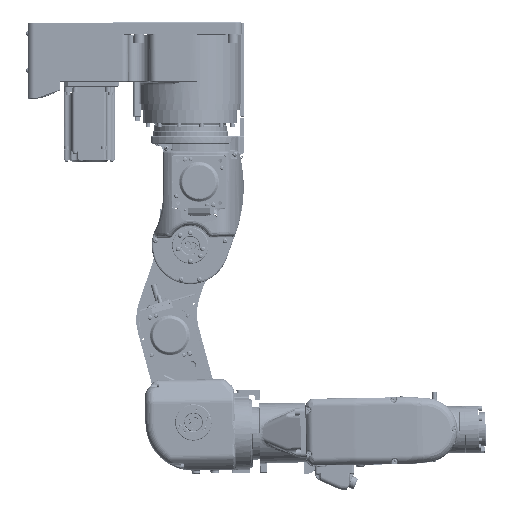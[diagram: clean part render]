
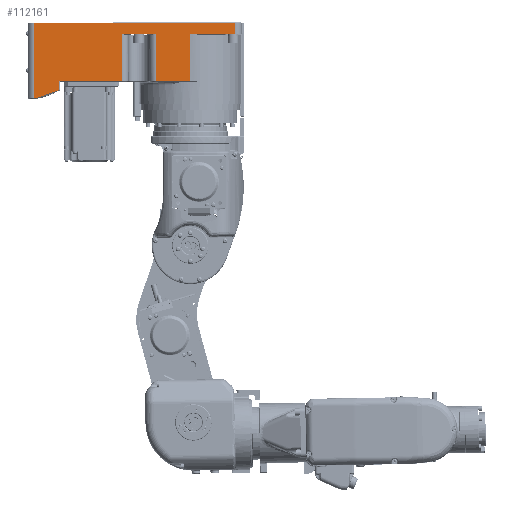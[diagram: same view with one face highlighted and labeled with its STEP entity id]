
A CAD part, front view. The second image highlights one B-rep face of the part: STEP entity #112161.
In plain terms, the highlighted planar face has unit normal (0, -1, 0).
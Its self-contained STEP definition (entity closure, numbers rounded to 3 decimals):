
#1033 = LINE ( 'NONE', #102497, #147409 ) ;
#3832 = CARTESIAN_POINT ( 'NONE',  ( -115.346, -60., -19. ) ) ;
#5036 = ORIENTED_EDGE ( 'NONE', *, *, #10570, .F. ) ;
#7152 = VECTOR ( 'NONE', #68190, 1000. ) ;
#10570 = EDGE_CURVE ( 'NONE', #271564, #52674, #225179, .T. ) ;
#12358 = LINE ( 'NONE', #80039, #276567 ) ;
#12629 = CARTESIAN_POINT ( 'NONE',  ( -115.346, -60., -18. ) ) ;
#17444 = ORIENTED_EDGE ( 'NONE', *, *, #107098, .T. ) ;
#17733 = DIRECTION ( 'NONE',  ( -1., 0., 0. ) ) ;
#19764 = DIRECTION ( 'NONE',  ( 1., 0., 0. ) ) ;
#23576 = ORIENTED_EDGE ( 'NONE', *, *, #147550, .T. ) ;
#26391 = VECTOR ( 'NONE', #36750, 1000. ) ;
#29257 = CARTESIAN_POINT ( 'NONE',  ( -15., -60., 1. ) ) ;
#32375 = EDGE_CURVE ( 'NONE', #271564, #135542, #98711, .T. ) ;
#33222 = ORIENTED_EDGE ( 'NONE', *, *, #236920, .T. ) ;
#33481 = LINE ( 'NONE', #81613, #26391 ) ;
#35337 = DIRECTION ( 'NONE',  ( 0., -1., 0. ) ) ;
#36622 = FACE_OUTER_BOUND ( 'NONE', #54789, .T. ) ;
#36750 = DIRECTION ( 'NONE',  ( 0., 0., -1. ) ) ;
#38523 = CARTESIAN_POINT ( 'NONE',  ( 125., -60., -19. ) ) ;
#39753 = CARTESIAN_POINT ( 'NONE',  ( 65., -60., 56. ) ) ;
#40089 = VERTEX_POINT ( 'NONE', #3832 ) ;
#43642 = LINE ( 'NONE', #38523, #168863 ) ;
#52674 = VERTEX_POINT ( 'NONE', #262591 ) ;
#54789 = EDGE_LOOP ( 'NONE', ( #33222, #23576, #269233, #121682, #136782, #194295, #5036, #254972, #162487, #245500, #88740, #162459, #123405, #17444, #60489, #276138 ) ) ;
#55221 = CARTESIAN_POINT ( 'NONE',  ( 126.021, -60., 67.141 ) ) ;
#56482 = AXIS2_PLACEMENT_3D ( 'NONE', #106504, #220370, #17733 ) ;
#58670 = AXIS2_PLACEMENT_3D ( 'NONE', #12629, #172388, #122516 ) ;
#60489 = ORIENTED_EDGE ( 'NONE', *, *, #102628, .T. ) ;
#64277 = CARTESIAN_POINT ( 'NONE',  ( -117., -60., 70. ) ) ;
#66249 = CARTESIAN_POINT ( 'NONE',  ( -125., -60., 69. ) ) ;
#67938 = VERTEX_POINT ( 'NONE', #244365 ) ;
#68190 = DIRECTION ( 'NONE',  ( 1., 0., 0. ) ) ;
#68613 = DIRECTION ( 'NONE',  ( 1., 0., 0. ) ) ;
#73678 = VERTEX_POINT ( 'NONE', #29257 ) ;
#75849 = VECTOR ( 'NONE', #255734, 1000. ) ;
#76180 = VECTOR ( 'NONE', #68613, 1000. ) ;
#80039 = CARTESIAN_POINT ( 'NONE',  ( 125., -60., 1. ) ) ;
#81613 = CARTESIAN_POINT ( 'NONE',  ( 25., -60., 0. ) ) ;
#83622 = VERTEX_POINT ( 'NONE', #114457 ) ;
#86010 = VERTEX_POINT ( 'NONE', #198870 ) ;
#86563 = EDGE_CURVE ( 'NONE', #209754, #83622, #1033, .T. ) ;
#88740 = ORIENTED_EDGE ( 'NONE', *, *, #292988, .T. ) ;
#90261 = VERTEX_POINT ( 'NONE', #118355 ) ;
#91018 = VECTOR ( 'NONE', #191245, 1000. ) ;
#96034 = CARTESIAN_POINT ( 'NONE',  ( -117., -60., -19. ) ) ;
#98711 = LINE ( 'NONE', #64277, #256010 ) ;
#102154 = DIRECTION ( 'NONE',  ( 0.942, 0., 0.336 ) ) ;
#102497 = CARTESIAN_POINT ( 'NONE',  ( -88., -60., 70. ) ) ;
#102628 = EDGE_CURVE ( 'NONE', #73678, #139441, #228588, .T. ) ;
#106504 = CARTESIAN_POINT ( 'NONE',  ( 125., -60., 70. ) ) ;
#107098 = EDGE_CURVE ( 'NONE', #83622, #73678, #255207, .T. ) ;
#108197 = EDGE_CURVE ( 'NONE', #86010, #52674, #127799, .T. ) ;
#108581 = VERTEX_POINT ( 'NONE', #39753 ) ;
#110360 = VERTEX_POINT ( 'NONE', #178202 ) ;
#112161 = ADVANCED_FACE ( 'NONE', ( #36622 ), #199381, .T. ) ;
#112964 = EDGE_CURVE ( 'NONE', #108581, #123546, #197401, .T. ) ;
#114457 = CARTESIAN_POINT ( 'NONE',  ( -88., -60., 1. ) ) ;
#115770 = LINE ( 'NONE', #55221, #183703 ) ;
#118355 = CARTESIAN_POINT ( 'NONE',  ( -115.01, -60., -18.942 ) ) ;
#118916 = CIRCLE ( 'NONE', #58670, 1. ) ;
#121682 = ORIENTED_EDGE ( 'NONE', *, *, #140535, .T. ) ;
#122516 = DIRECTION ( 'NONE',  ( -1., 0., 0. ) ) ;
#123405 = ORIENTED_EDGE ( 'NONE', *, *, #86563, .T. ) ;
#123546 = VERTEX_POINT ( 'NONE', #189064 ) ;
#127799 = LINE ( 'NONE', #175396, #242070 ) ;
#128065 = CARTESIAN_POINT ( 'NONE',  ( 117., -60., 56. ) ) ;
#128555 = VECTOR ( 'NONE', #293419, 1000. ) ;
#133574 = CARTESIAN_POINT ( 'NONE',  ( 125., -60., 56. ) ) ;
#133737 = CARTESIAN_POINT ( 'NONE',  ( -15., -60., 55. ) ) ;
#135542 = VERTEX_POINT ( 'NONE', #96034 ) ;
#136782 = ORIENTED_EDGE ( 'NONE', *, *, #296415, .T. ) ;
#137388 = CARTESIAN_POINT ( 'NONE',  ( -117., -60., 69. ) ) ;
#139441 = VERTEX_POINT ( 'NONE', #172645 ) ;
#140535 = EDGE_CURVE ( 'NONE', #108581, #291613, #158508, .T. ) ;
#141876 = LINE ( 'NONE', #244732, #195478 ) ;
#147409 = VECTOR ( 'NONE', #192390, 1000. ) ;
#147550 = EDGE_CURVE ( 'NONE', #67938, #123546, #12358, .T. ) ;
#148389 = EDGE_CURVE ( 'NONE', #139441, #110360, #267028, .T. ) ;
#158508 = LINE ( 'NONE', #205467, #76180 ) ;
#162459 = ORIENTED_EDGE ( 'NONE', *, *, #255720, .T. ) ;
#162487 = ORIENTED_EDGE ( 'NONE', *, *, #284217, .T. ) ;
#168863 = VECTOR ( 'NONE', #201245, 1000. ) ;
#172388 = DIRECTION ( 'NONE',  ( 0., -1., 0. ) ) ;
#172489 = CARTESIAN_POINT ( 'NONE',  ( -88., -60., -8.591 ) ) ;
#172645 = CARTESIAN_POINT ( 'NONE',  ( -15., -60., 56. ) ) ;
#175396 = CARTESIAN_POINT ( 'NONE',  ( -25., -60., 69. ) ) ;
#178202 = CARTESIAN_POINT ( 'NONE',  ( 25., -60., 56. ) ) ;
#181055 = DIRECTION ( 'NONE',  ( 0., 0., -1. ) ) ;
#183703 = VECTOR ( 'NONE', #102154, 1000. ) ;
#189064 = CARTESIAN_POINT ( 'NONE',  ( 65., -60., 1. ) ) ;
#189554 = CIRCLE ( 'NONE', #207805, 1. ) ;
#191245 = DIRECTION ( 'NONE',  ( 1., 0., 0. ) ) ;
#192162 = CARTESIAN_POINT ( 'NONE',  ( -89., -60., -8.591 ) ) ;
#192390 = DIRECTION ( 'NONE',  ( 0., 0., 1. ) ) ;
#194295 = ORIENTED_EDGE ( 'NONE', *, *, #108197, .T. ) ;
#195478 = VECTOR ( 'NONE', #245710, 1000. ) ;
#197401 = LINE ( 'NONE', #203945, #75849 ) ;
#198870 = CARTESIAN_POINT ( 'NONE',  ( 117., -60., 69. ) ) ;
#199381 = PLANE ( 'NONE',  #56482 ) ;
#201245 = DIRECTION ( 'NONE',  ( 1., 0., 0. ) ) ;
#203945 = CARTESIAN_POINT ( 'NONE',  ( 65., -60., 55. ) ) ;
#205467 = CARTESIAN_POINT ( 'NONE',  ( 125., -60., 56. ) ) ;
#207805 = AXIS2_PLACEMENT_3D ( 'NONE', #192162, #35337, #284036 ) ;
#209754 = VERTEX_POINT ( 'NONE', #172489 ) ;
#215901 = DIRECTION ( 'NONE',  ( 1., 0., 0. ) ) ;
#220370 = DIRECTION ( 'NONE',  ( 0., -1., 0. ) ) ;
#223304 = EDGE_CURVE ( 'NONE', #40089, #90261, #118916, .T. ) ;
#225179 = LINE ( 'NONE', #66249, #7152 ) ;
#228588 = LINE ( 'NONE', #133737, #128555 ) ;
#235118 = CARTESIAN_POINT ( 'NONE',  ( 125., -60., 1. ) ) ;
#236920 = EDGE_CURVE ( 'NONE', #110360, #67938, #33481, .T. ) ;
#242070 = VECTOR ( 'NONE', #286291, 1000. ) ;
#244365 = CARTESIAN_POINT ( 'NONE',  ( 25., -60., 1. ) ) ;
#244732 = CARTESIAN_POINT ( 'NONE',  ( 117., -60., 70. ) ) ;
#245500 = ORIENTED_EDGE ( 'NONE', *, *, #223304, .T. ) ;
#245710 = DIRECTION ( 'NONE',  ( 0., 0., 1. ) ) ;
#254972 = ORIENTED_EDGE ( 'NONE', *, *, #32375, .T. ) ;
#255207 = LINE ( 'NONE', #235118, #91018 ) ;
#255720 = EDGE_CURVE ( 'NONE', #292249, #209754, #189554, .T. ) ;
#255734 = DIRECTION ( 'NONE',  ( 0., 0., -1. ) ) ;
#256010 = VECTOR ( 'NONE', #181055, 1000. ) ;
#256373 = VECTOR ( 'NONE', #19764, 1000. ) ;
#262591 = CARTESIAN_POINT ( 'NONE',  ( -25., -60., 69. ) ) ;
#267028 = LINE ( 'NONE', #133574, #256373 ) ;
#269233 = ORIENTED_EDGE ( 'NONE', *, *, #112964, .F. ) ;
#270436 = CARTESIAN_POINT ( 'NONE',  ( -88.664, -60., -9.532 ) ) ;
#271564 = VERTEX_POINT ( 'NONE', #137388 ) ;
#276138 = ORIENTED_EDGE ( 'NONE', *, *, #148389, .T. ) ;
#276567 = VECTOR ( 'NONE', #215901, 1000. ) ;
#284036 = DIRECTION ( 'NONE',  ( -1., 0., 0. ) ) ;
#284217 = EDGE_CURVE ( 'NONE', #135542, #40089, #43642, .T. ) ;
#286291 = DIRECTION ( 'NONE',  ( -1., 0., 0. ) ) ;
#291613 = VERTEX_POINT ( 'NONE', #128065 ) ;
#292249 = VERTEX_POINT ( 'NONE', #270436 ) ;
#292988 = EDGE_CURVE ( 'NONE', #90261, #292249, #115770, .T. ) ;
#293419 = DIRECTION ( 'NONE',  ( 0., 0., 1. ) ) ;
#296415 = EDGE_CURVE ( 'NONE', #291613, #86010, #141876, .T. ) ;
